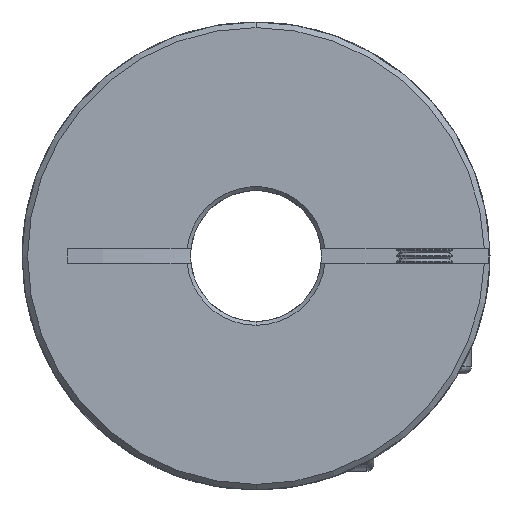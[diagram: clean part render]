
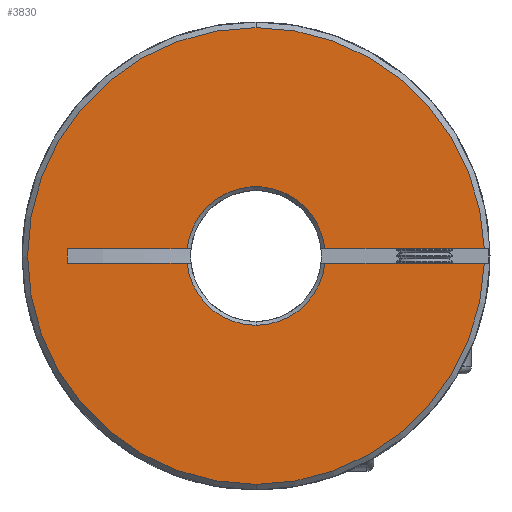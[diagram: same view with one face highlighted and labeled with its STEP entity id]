
A CAD part, front view. The second image highlights one B-rep face of the part: STEP entity #3830.
In plain terms, the highlighted planar face has unit normal (0, -1, 0).
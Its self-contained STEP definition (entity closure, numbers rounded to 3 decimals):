
#82 = PLANE ( 'NONE',  #11007 ) ;
#134 = VECTOR ( 'NONE', #14470, 1000. ) ;
#254 = CARTESIAN_POINT ( 'NONE',  ( -20.149, 0., 0.75 ) ) ;
#704 = CARTESIAN_POINT ( 'NONE',  ( 7.362, 0., -0.75 ) ) ;
#820 = AXIS2_PLACEMENT_3D ( 'NONE', #11033, #4253, #9580 ) ;
#1653 = CARTESIAN_POINT ( 'NONE',  ( 7.362, 0., 0.75 ) ) ;
#1941 = CARTESIAN_POINT ( 'NONE',  ( 0., 0., 0. ) ) ;
#1990 = VECTOR ( 'NONE', #8250, 1000. ) ;
#2036 = VERTEX_POINT ( 'NONE', #704 ) ;
#2059 = ORIENTED_EDGE ( 'NONE', *, *, #9520, .T. ) ;
#2565 = DIRECTION ( 'NONE',  ( 0., 0., 1. ) ) ;
#2725 = VECTOR ( 'NONE', #4939, 1000. ) ;
#2744 = AXIS2_PLACEMENT_3D ( 'NONE', #1941, #12949, #8886 ) ;
#2801 = LINE ( 'NONE', #17478, #8908 ) ;
#2823 = ORIENTED_EDGE ( 'NONE', *, *, #12057, .F. ) ;
#3065 = VERTEX_POINT ( 'NONE', #7937 ) ;
#3084 = CARTESIAN_POINT ( 'NONE',  ( 0., 0., 0. ) ) ;
#3221 = CARTESIAN_POINT ( 'NONE',  ( -20.149, 0., -0.75 ) ) ;
#3318 = LINE ( 'NONE', #3221, #4585 ) ;
#3376 = CARTESIAN_POINT ( 'NONE',  ( 24.388, 0., 0.75 ) ) ;
#3778 = EDGE_CURVE ( 'NONE', #14795, #4991, #15970, .T. ) ;
#3830 = ADVANCED_FACE ( 'NONE', ( #10889 ), #82, .F. ) ;
#4126 = LINE ( 'NONE', #10278, #134 ) ;
#4136 = DIRECTION ( 'NONE',  ( 0., 0., 1. ) ) ;
#4248 = CARTESIAN_POINT ( 'NONE',  ( -50., 0., 32.858 ) ) ;
#4253 = DIRECTION ( 'NONE',  ( 0., -1., 0. ) ) ;
#4422 = ORIENTED_EDGE ( 'NONE', *, *, #3778, .T. ) ;
#4486 = VERTEX_POINT ( 'NONE', #1653 ) ;
#4585 = VECTOR ( 'NONE', #12657, 1000. ) ;
#4716 = EDGE_LOOP ( 'NONE', ( #10396, #14632, #12941, #2823, #10540, #7501, #7370, #11303, #6302, #2059, #4422 ) ) ;
#4939 = DIRECTION ( 'NONE',  ( 1., 0., 0. ) ) ;
#4991 = VERTEX_POINT ( 'NONE', #12439 ) ;
#5397 = VERTEX_POINT ( 'NONE', #3376 ) ;
#5522 = CARTESIAN_POINT ( 'NONE',  ( -7.362, 0., 0.75 ) ) ;
#5579 = CIRCLE ( 'NONE', #6592, 24.4 ) ;
#5624 = DIRECTION ( 'NONE',  ( 0., -1., 0. ) ) ;
#5660 = VERTEX_POINT ( 'NONE', #254 ) ;
#5803 = DIRECTION ( 'NONE',  ( 0., 1., 0. ) ) ;
#6251 = CARTESIAN_POINT ( 'NONE',  ( -50., 0., 0.75 ) ) ;
#6302 = ORIENTED_EDGE ( 'NONE', *, *, #10846, .T. ) ;
#6377 = VERTEX_POINT ( 'NONE', #10065 ) ;
#6508 = AXIS2_PLACEMENT_3D ( 'NONE', #13648, #5624, #4136 ) ;
#6592 = AXIS2_PLACEMENT_3D ( 'NONE', #12456, #16477, #10935 ) ;
#6854 = AXIS2_PLACEMENT_3D ( 'NONE', #13478, #11992, #2565 ) ;
#6918 = LINE ( 'NONE', #6251, #2725 ) ;
#7008 = CARTESIAN_POINT ( 'NONE',  ( 0., 0., -24.4 ) ) ;
#7208 = DIRECTION ( 'NONE',  ( 0., 0., 1. ) ) ;
#7370 = ORIENTED_EDGE ( 'NONE', *, *, #8736, .T. ) ;
#7501 = ORIENTED_EDGE ( 'NONE', *, *, #14168, .T. ) ;
#7530 = EDGE_CURVE ( 'NONE', #2036, #6377, #13031, .T. ) ;
#7937 = CARTESIAN_POINT ( 'NONE',  ( 0., 0., 24.4 ) ) ;
#7939 = CIRCLE ( 'NONE', #2744, 7.4 ) ;
#8250 = DIRECTION ( 'NONE',  ( 1., 0., 0. ) ) ;
#8736 = EDGE_CURVE ( 'NONE', #15461, #4486, #7939, .T. ) ;
#8886 = DIRECTION ( 'NONE',  ( 0., 0., 1. ) ) ;
#8908 = VECTOR ( 'NONE', #16196, 1000. ) ;
#9520 = EDGE_CURVE ( 'NONE', #3065, #14795, #11469, .T. ) ;
#9555 = CARTESIAN_POINT ( 'NONE',  ( -50., 0., 0.75 ) ) ;
#9580 = DIRECTION ( 'NONE',  ( 0., 0., 1. ) ) ;
#9588 = LINE ( 'NONE', #9555, #1990 ) ;
#9902 = EDGE_CURVE ( 'NONE', #4486, #5397, #9588, .T. ) ;
#10065 = CARTESIAN_POINT ( 'NONE',  ( 0., 0., -7.4 ) ) ;
#10278 = CARTESIAN_POINT ( 'NONE',  ( -50., 0., -0.75 ) ) ;
#10396 = ORIENTED_EDGE ( 'NONE', *, *, #15752, .F. ) ;
#10540 = ORIENTED_EDGE ( 'NONE', *, *, #14989, .T. ) ;
#10846 = EDGE_CURVE ( 'NONE', #5397, #3065, #5579, .T. ) ;
#10889 = FACE_OUTER_BOUND ( 'NONE', #4716, .T. ) ;
#10935 = DIRECTION ( 'NONE',  ( 0., 0., 1. ) ) ;
#11007 = AXIS2_PLACEMENT_3D ( 'NONE', #4248, #13575, #12153 ) ;
#11033 = CARTESIAN_POINT ( 'NONE',  ( 0., 0., 0. ) ) ;
#11303 = ORIENTED_EDGE ( 'NONE', *, *, #9902, .T. ) ;
#11469 = CIRCLE ( 'NONE', #820, 24.4 ) ;
#11992 = DIRECTION ( 'NONE',  ( 0., 1., 0. ) ) ;
#12057 = EDGE_CURVE ( 'NONE', #17330, #16318, #2801, .T. ) ;
#12153 = DIRECTION ( 'NONE',  ( 0., 0., 1. ) ) ;
#12439 = CARTESIAN_POINT ( 'NONE',  ( 24.388, 0., -0.75 ) ) ;
#12456 = CARTESIAN_POINT ( 'NONE',  ( 0., 0., 0. ) ) ;
#12657 = DIRECTION ( 'NONE',  ( 0., 0., 1. ) ) ;
#12941 = ORIENTED_EDGE ( 'NONE', *, *, #13366, .T. ) ;
#12949 = DIRECTION ( 'NONE',  ( 0., 1., 0. ) ) ;
#13031 = CIRCLE ( 'NONE', #13460, 7.4 ) ;
#13366 = EDGE_CURVE ( 'NONE', #6377, #16318, #17281, .T. ) ;
#13460 = AXIS2_PLACEMENT_3D ( 'NONE', #3084, #5803, #7208 ) ;
#13478 = CARTESIAN_POINT ( 'NONE',  ( 0., 0., 0. ) ) ;
#13575 = DIRECTION ( 'NONE',  ( 0., 1., 0. ) ) ;
#13648 = CARTESIAN_POINT ( 'NONE',  ( 0., 0., 0. ) ) ;
#14168 = EDGE_CURVE ( 'NONE', #5660, #15461, #6918, .T. ) ;
#14470 = DIRECTION ( 'NONE',  ( 1., 0., 0. ) ) ;
#14632 = ORIENTED_EDGE ( 'NONE', *, *, #7530, .T. ) ;
#14795 = VERTEX_POINT ( 'NONE', #7008 ) ;
#14800 = CARTESIAN_POINT ( 'NONE',  ( -7.362, 0., -0.75 ) ) ;
#14989 = EDGE_CURVE ( 'NONE', #17330, #5660, #3318, .T. ) ;
#15461 = VERTEX_POINT ( 'NONE', #5522 ) ;
#15752 = EDGE_CURVE ( 'NONE', #2036, #4991, #4126, .T. ) ;
#15970 = CIRCLE ( 'NONE', #6508, 24.4 ) ;
#16196 = DIRECTION ( 'NONE',  ( 1., 0., 0. ) ) ;
#16318 = VERTEX_POINT ( 'NONE', #14800 ) ;
#16477 = DIRECTION ( 'NONE',  ( 0., -1., 0. ) ) ;
#17049 = CARTESIAN_POINT ( 'NONE',  ( -20.149, 0., -0.75 ) ) ;
#17281 = CIRCLE ( 'NONE', #6854, 7.4 ) ;
#17330 = VERTEX_POINT ( 'NONE', #17049 ) ;
#17478 = CARTESIAN_POINT ( 'NONE',  ( -50., 0., -0.75 ) ) ;
